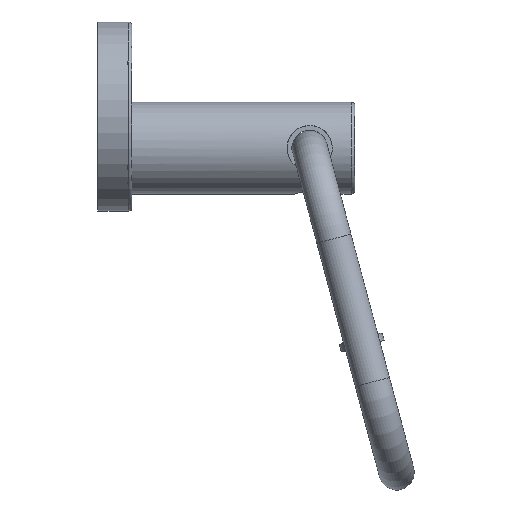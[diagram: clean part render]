
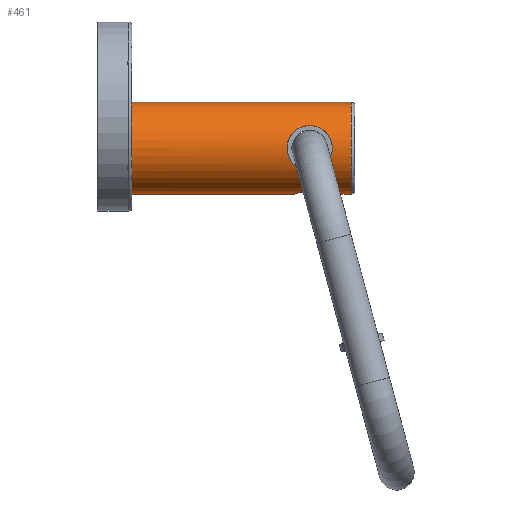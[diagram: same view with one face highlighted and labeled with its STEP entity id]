
A CAD part, left-side view. The second image highlights one B-rep face of the part: STEP entity #461.
In plain terms, the highlighted cylindrical face has radius 12.4 mm (diameter 24.8 mm), a full revolution.
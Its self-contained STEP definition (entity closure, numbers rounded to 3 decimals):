
#461=ADVANCED_FACE('',(#710,#711,#712,#713,#714),#567,.T.);
#567=CYLINDRICAL_SURFACE('',#1747,12.4);
#608=CIRCLE('',#1745,12.4);
#609=CIRCLE('',#1746,12.4);
#710=FACE_BOUND('',#794,.T.);
#711=FACE_BOUND('',#795,.T.);
#712=FACE_BOUND('',#796,.T.);
#713=FACE_BOUND('',#797,.T.);
#714=FACE_BOUND('',#798,.T.);
#794=EDGE_LOOP('',(#951));
#795=EDGE_LOOP('',(#952));
#796=EDGE_LOOP('',(#953));
#797=EDGE_LOOP('',(#954));
#798=EDGE_LOOP('',(#955));
#951=ORIENTED_EDGE('',*,*,#1528,.F.);
#952=ORIENTED_EDGE('',*,*,#1529,.T.);
#953=ORIENTED_EDGE('',*,*,#1530,.F.);
#954=ORIENTED_EDGE('',*,*,#1531,.T.);
#955=ORIENTED_EDGE('',*,*,#1532,.F.);
#1375=VERTEX_POINT('',#2496);
#1376=VERTEX_POINT('',#2498);
#1377=VERTEX_POINT('',#2517);
#1378=VERTEX_POINT('',#2519);
#1379=VERTEX_POINT('',#2538);
#1528=EDGE_CURVE('',#1375,#1375,#1740,.T.);
#1529=EDGE_CURVE('',#1376,#1376,#608,.T.);
#1530=EDGE_CURVE('',#1377,#1377,#1741,.T.);
#1531=EDGE_CURVE('',#1378,#1378,#609,.T.);
#1532=EDGE_CURVE('',#1379,#1379,#1742,.T.);
#1740=B_SPLINE_CURVE_WITH_KNOTS('',3,(#2478,#2479,#2480,#2481,#2482,#2483,
#2484,#2485,#2486,#2487,#2488,#2489,#2490,#2491,#2492,#2493,#2494,#2495),
.UNSPECIFIED.,.T.,.F.,(2,2,2,2,2,2,2,2,2,2,2),(-0.125,0.,0.125,0.25,0.375,
0.5,0.625,0.75,0.875,1.,1.125),.UNSPECIFIED.);
#1741=B_SPLINE_CURVE_WITH_KNOTS('',3,(#2499,#2500,#2501,#2502,#2503,#2504,
#2505,#2506,#2507,#2508,#2509,#2510,#2511,#2512,#2513,#2514,#2515,#2516),
.UNSPECIFIED.,.T.,.F.,(2,2,2,2,2,2,2,2,2,2,2),(-0.125,0.,0.125,0.25,0.375,
0.5,0.625,0.75,0.875,1.,1.125),.UNSPECIFIED.);
#1742=B_SPLINE_CURVE_WITH_KNOTS('',3,(#2520,#2521,#2522,#2523,#2524,#2525,
#2526,#2527,#2528,#2529,#2530,#2531,#2532,#2533,#2534,#2535,#2536,#2537),
.UNSPECIFIED.,.T.,.F.,(2,2,2,2,2,2,2,2,2,2,2),(-0.125,0.,0.125,0.25,0.375,
0.5,0.625,0.75,0.875,1.,1.125),.UNSPECIFIED.);
#1745=AXIS2_PLACEMENT_3D('',#2497,#1955,#1956);
#1746=AXIS2_PLACEMENT_3D('',#2518,#1957,#1958);
#1747=AXIS2_PLACEMENT_3D('',#2539,#1959,#1960);
#1955=DIRECTION('',(0.,1.,0.));
#1956=DIRECTION('',(0.,0.,-1.));
#1957=DIRECTION('',(0.,-1.,0.));
#1958=DIRECTION('',(0.,0.,-1.));
#1959=DIRECTION('',(0.,1.,0.));
#1960=DIRECTION('',(0.,0.,1.));
#2478=CARTESIAN_POINT('',(930.632,-23.05,279.1));
#2479=CARTESIAN_POINT('',(928.368,-23.05,279.1));
#2480=CARTESIAN_POINT('',(927.272,-22.582,279.276));
#2481=CARTESIAN_POINT('',(925.717,-21.027,279.664));
#2482=CARTESIAN_POINT('',(925.251,-19.923,279.851));
#2483=CARTESIAN_POINT('',(925.249,-17.687,279.852));
#2484=CARTESIAN_POINT('',(925.712,-16.579,279.665));
#2485=CARTESIAN_POINT('',(927.274,-15.015,279.275));
#2486=CARTESIAN_POINT('',(928.367,-14.55,279.1));
#2487=CARTESIAN_POINT('',(930.631,-14.55,279.1));
#2488=CARTESIAN_POINT('',(931.728,-15.017,279.275));
#2489=CARTESIAN_POINT('',(933.283,-16.572,279.664));
#2490=CARTESIAN_POINT('',(933.749,-17.677,279.851));
#2491=CARTESIAN_POINT('',(933.751,-19.913,279.852));
#2492=CARTESIAN_POINT('',(933.288,-21.021,279.665));
#2493=CARTESIAN_POINT('',(931.726,-22.585,279.275));
#2494=CARTESIAN_POINT('',(930.632,-23.05,279.1));
#2495=CARTESIAN_POINT('',(928.368,-23.05,279.1));
#2496=CARTESIAN_POINT('',(929.5,-23.05,279.1));
#2497=CARTESIAN_POINT('',(929.5,-30.,291.5));
#2498=CARTESIAN_POINT('',(929.5,-30.,279.1));
#2499=CARTESIAN_POINT('',(941.995,-12.505,291.003));
#2500=CARTESIAN_POINT('',(941.706,-13.099,294.215));
#2501=CARTESIAN_POINT('',(941.239,-14.03,295.613));
#2502=CARTESIAN_POINT('',(940.449,-16.602,297.402));
#2503=CARTESIAN_POINT('',(940.191,-18.308,297.791));
#2504=CARTESIAN_POINT('',(940.511,-21.482,297.211));
#2505=CARTESIAN_POINT('',(941.019,-22.898,296.285));
#2506=CARTESIAN_POINT('',(941.777,-24.702,293.703));
#2507=CARTESIAN_POINT('',(941.992,-25.09,291.992));
#2508=CARTESIAN_POINT('',(941.711,-24.512,288.82));
#2509=CARTESIAN_POINT('',(941.244,-23.584,287.399));
#2510=CARTESIAN_POINT('',(940.447,-20.991,285.592));
#2511=CARTESIAN_POINT('',(940.191,-19.289,285.21));
#2512=CARTESIAN_POINT('',(940.512,-16.118,285.789));
#2513=CARTESIAN_POINT('',(941.015,-14.71,286.702));
#2514=CARTESIAN_POINT('',(941.781,-12.887,289.314));
#2515=CARTESIAN_POINT('',(941.995,-12.505,291.003));
#2516=CARTESIAN_POINT('',(941.706,-13.099,294.215));
#2517=CARTESIAN_POINT('',(941.85,-12.802,292.609));
#2518=CARTESIAN_POINT('',(929.5,30.3,291.5));
#2519=CARTESIAN_POINT('',(929.5,30.3,279.1));
#2520=CARTESIAN_POINT('',(917.005,-12.505,291.997));
#2521=CARTESIAN_POINT('',(917.294,-13.099,288.785));
#2522=CARTESIAN_POINT('',(917.761,-14.03,287.387));
#2523=CARTESIAN_POINT('',(918.551,-16.602,285.598));
#2524=CARTESIAN_POINT('',(918.809,-18.308,285.209));
#2525=CARTESIAN_POINT('',(918.489,-21.482,285.789));
#2526=CARTESIAN_POINT('',(917.981,-22.898,286.715));
#2527=CARTESIAN_POINT('',(917.223,-24.702,289.297));
#2528=CARTESIAN_POINT('',(917.008,-25.09,291.008));
#2529=CARTESIAN_POINT('',(917.289,-24.512,294.18));
#2530=CARTESIAN_POINT('',(917.756,-23.584,295.601));
#2531=CARTESIAN_POINT('',(918.553,-20.991,297.408));
#2532=CARTESIAN_POINT('',(918.809,-19.289,297.79));
#2533=CARTESIAN_POINT('',(918.488,-16.118,297.211));
#2534=CARTESIAN_POINT('',(917.985,-14.71,296.298));
#2535=CARTESIAN_POINT('',(917.219,-12.887,293.686));
#2536=CARTESIAN_POINT('',(917.005,-12.505,291.997));
#2537=CARTESIAN_POINT('',(917.294,-13.099,288.785));
#2538=CARTESIAN_POINT('',(917.15,-12.802,290.391));
#2539=CARTESIAN_POINT('',(929.5,-31.,291.5));
